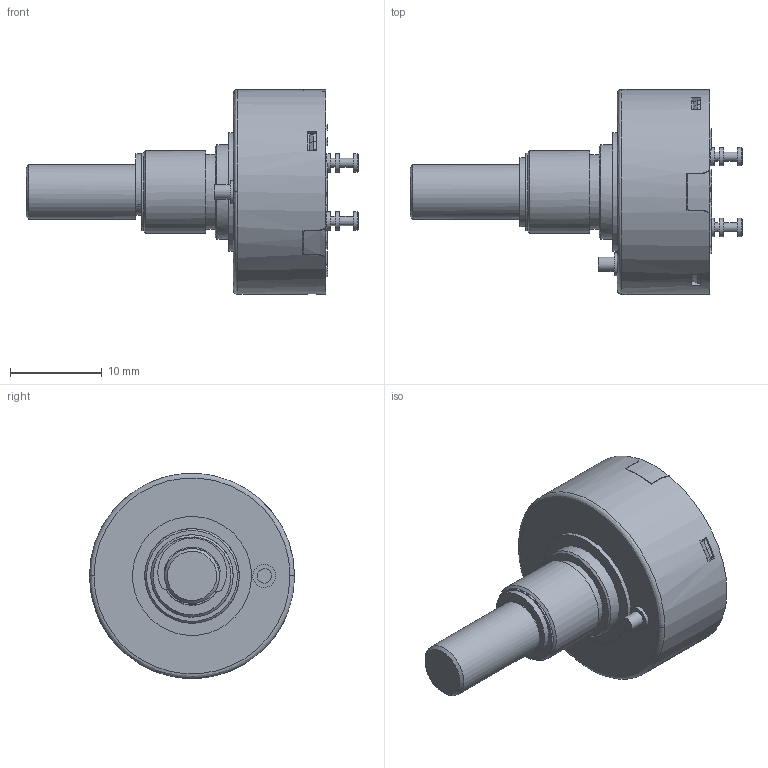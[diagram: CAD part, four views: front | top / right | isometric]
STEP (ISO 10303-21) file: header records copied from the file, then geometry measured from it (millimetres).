
FILE_DESCRIPTION (( 'STEP AP214' ), '1' );
FILE_NAME ('3-D_MPA20 MPA21-Logofrei.STEP', '2019-05-15T14:16:29', ( '' ), ( '' ), 'SwSTEP 2.0', 'SolidWorks 2017', '' );
FILE_SCHEMA (( 'AUTOMOTIVE_DESIGN' ));
Length unit declared in the file: millimetre
Products named in the file (1): 3-D_MPA20 MPA21-Logofrei
Bounding box: 36.26 x 22.4 x 22.39 mm (x, y, z)
Volume: 6762.8 mm3; surface area: 4194.3 mm2
Topology: 10 solids, 10 shells, 1226 faces, 3602 edges, 2378 vertices
Faces by surface type: plane 880, cylinder 250, bspline 77, cone 19
Full cylindrical faces by diameter (mm): 0.8 x3, 1 x10, 1.57 x1, 2 x15, 2.5 x2, 4 x1, 4.2 x1, 4.65 x1, 5 x2, 5.1 x1, 5.95 x1, 6 x1, 6.35 x4, 6.4 x1, 8.2 x1, 8.5 x1, 9 x1, 10.32 x1, 13 x1, 16.01 x1, 18.45 x1, 20.5 x1, 21.4 x1, 22.4 x1
Entity records: 42559 total; most frequent: CARTESIAN_POINT 10727, ORIENTED_EDGE 6992, DIRECTION 6024, EDGE_CURVE 3496, VECTOR 2494, LINE 2494, VERTEX_POINT 2345, AXIS2_PLACEMENT_3D 1765
